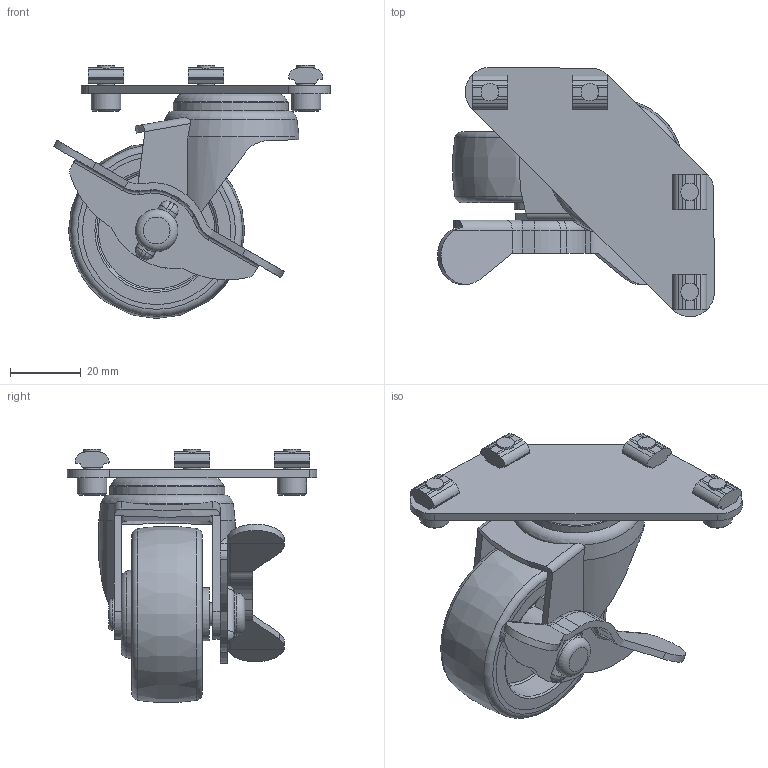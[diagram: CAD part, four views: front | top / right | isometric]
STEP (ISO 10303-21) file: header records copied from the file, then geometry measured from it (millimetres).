
FILE_DESCRIPTION(('STEP AP214'),'1');
FILE_NAME('CAP5-UR25.stp','2017-03-20T06:42:35',(' '),(' '),'Spatial InterOp 3D',' ',' ');
FILE_SCHEMA(('automotive_design'));
Length unit declared in the file: millimetre
Products named in the file (12): CAP5-UR25; CAP5-UR; CAP5ﾌﾟﾚｰﾄ; _____188; CAP5車輪; CAP5ﾎﾞﾃﾞｨｰ; NF25-M5
Assembly tree (14 placements, depth 4):
  CAP5-UR25
    (unnamed)  x4
    CAP5-UR
      CAP5ﾌﾟﾚｰﾄ
      _____188
        CAP5車輪
        CAP5車輪
        CAP5ﾎﾞﾃﾞｨｰ
    NF25-M5
    NF25-M5
    NF25-M5
    NF25-M5
Bounding box: 78.4 x 70.56 x 71.62 mm (x, y, z)
Volume: 56007.5 mm3; surface area: 35252.1 mm2
Topology: 12 solids, 12 shells, 333 faces, 841 edges, 544 vertices
Faces by surface type: plane 174, cylinder 116, torus 27, cone 11, bspline 5
Full cylindrical faces by diameter (mm): 5 x4, 5.2 x4, 6.5 x1, 8.385 x4, 9 x1, 12 x1, 15 x2, 32 x1, 32.6 x1, 34 x2, 42 x2
Entity records: 11720 total; most frequent: CARTESIAN_POINT 1931, DIRECTION 1560, ORIENTED_EDGE 1432, EDGE_CURVE 716, AXIS2_PLACEMENT_3D 588, VERTEX_POINT 483, LINE 384, VECTOR 384
